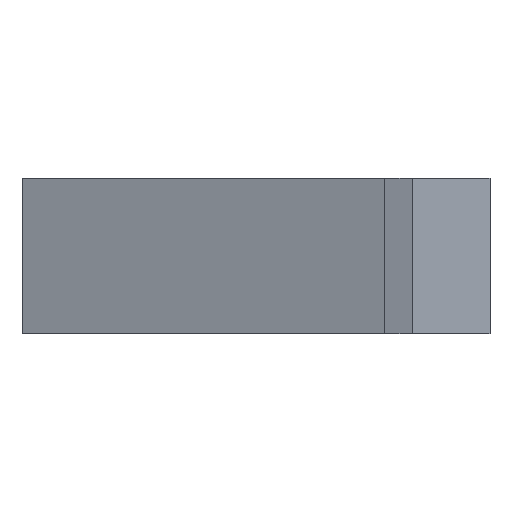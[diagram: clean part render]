
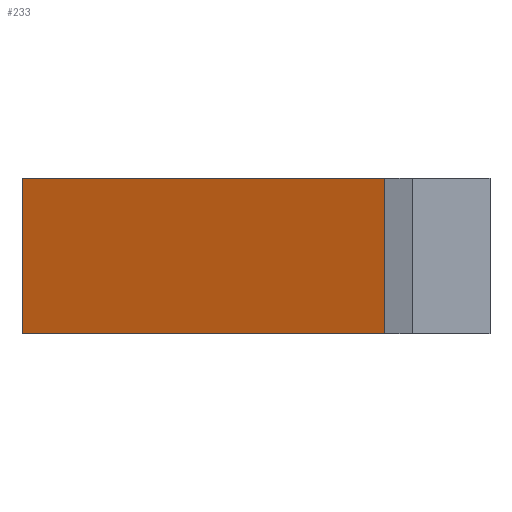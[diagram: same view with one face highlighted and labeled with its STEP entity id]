
A CAD part, front view. The second image highlights one B-rep face of the part: STEP entity #233.
In plain terms, the highlighted planar face has unit normal (-0.357, -0.934, 0).
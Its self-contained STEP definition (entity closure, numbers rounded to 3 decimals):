
#30 = DIRECTION ( 'NONE',  ( 0., 0., 1. ) ) ;
#34 = EDGE_LOOP ( 'NONE', ( #153, #112, #447, #501 ) ) ;
#54 = EDGE_CURVE ( 'NONE', #480, #165, #103, .T. ) ;
#63 = VECTOR ( 'NONE', #304, 1000. ) ;
#79 = VECTOR ( 'NONE', #102, 1000. ) ;
#102 = DIRECTION ( 'NONE',  ( 0., 0., 1. ) ) ;
#103 = LINE ( 'NONE', #146, #63 ) ;
#112 = ORIENTED_EDGE ( 'NONE', *, *, #54, .F. ) ;
#146 = CARTESIAN_POINT ( 'NONE',  ( -10.054, -40.294, 4. ) ) ;
#149 = CARTESIAN_POINT ( 'NONE',  ( -10.054, -40.294, 0. ) ) ;
#150 = CARTESIAN_POINT ( 'NONE',  ( -0.715, -43.868, 0. ) ) ;
#153 = ORIENTED_EDGE ( 'NONE', *, *, #508, .T. ) ;
#165 = VERTEX_POINT ( 'NONE', #192 ) ;
#192 = CARTESIAN_POINT ( 'NONE',  ( -0.715, -43.868, 4. ) ) ;
#233 = ADVANCED_FACE ( 'NONE', ( #358 ), #379, .F. ) ;
#272 = VERTEX_POINT ( 'NONE', #336 ) ;
#303 = CARTESIAN_POINT ( 'NONE',  ( -0.715, -43.868, 0. ) ) ;
#304 = DIRECTION ( 'NONE',  ( 0.934, -0.357, 0. ) ) ;
#311 = CARTESIAN_POINT ( 'NONE',  ( -10.054, -40.294, 0. ) ) ;
#336 = CARTESIAN_POINT ( 'NONE',  ( -10.054, -40.294, 0. ) ) ;
#346 = LINE ( 'NONE', #311, #79 ) ;
#354 = LINE ( 'NONE', #149, #425 ) ;
#358 = FACE_OUTER_BOUND ( 'NONE', #34, .T. ) ;
#375 = CARTESIAN_POINT ( 'NONE',  ( -10.054, -40.294, 0. ) ) ;
#379 = PLANE ( 'NONE',  #406 ) ;
#385 = CARTESIAN_POINT ( 'NONE',  ( -10.054, -40.294, 4. ) ) ;
#406 = AXIS2_PLACEMENT_3D ( 'NONE', #375, #453, #448 ) ;
#425 = VECTOR ( 'NONE', #498, 1000. ) ;
#431 = VECTOR ( 'NONE', #30, 1000. ) ;
#437 = EDGE_CURVE ( 'NONE', #272, #480, #346, .T. ) ;
#438 = VERTEX_POINT ( 'NONE', #303 ) ;
#444 = EDGE_CURVE ( 'NONE', #272, #438, #354, .T. ) ;
#447 = ORIENTED_EDGE ( 'NONE', *, *, #437, .F. ) ;
#448 = DIRECTION ( 'NONE',  ( -0.934, 0.357, 0. ) ) ;
#453 = DIRECTION ( 'NONE',  ( 0.357, 0.934, 0. ) ) ;
#476 = LINE ( 'NONE', #150, #431 ) ;
#480 = VERTEX_POINT ( 'NONE', #385 ) ;
#498 = DIRECTION ( 'NONE',  ( 0.934, -0.357, 0. ) ) ;
#501 = ORIENTED_EDGE ( 'NONE', *, *, #444, .T. ) ;
#508 = EDGE_CURVE ( 'NONE', #438, #165, #476, .T. ) ;
